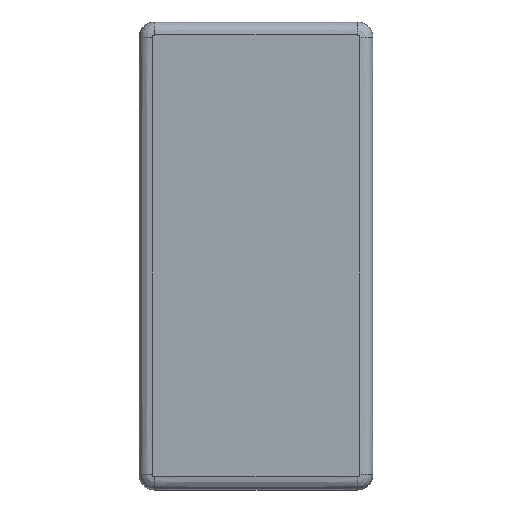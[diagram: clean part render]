
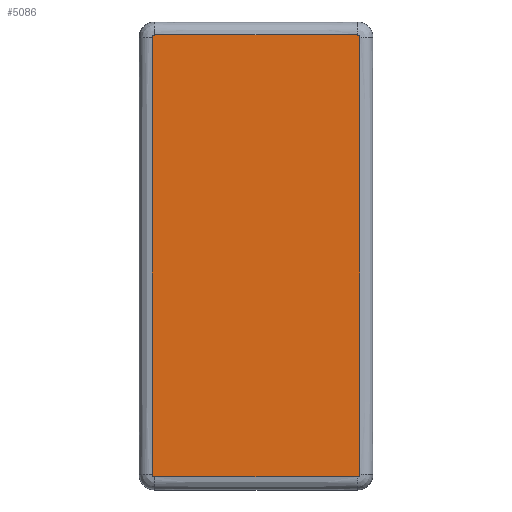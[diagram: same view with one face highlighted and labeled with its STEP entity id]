
A CAD part, top view. The second image highlights one B-rep face of the part: STEP entity #5086.
In plain terms, the highlighted planar face has unit normal (0, 0, 1).
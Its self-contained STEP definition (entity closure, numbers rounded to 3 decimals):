
#75 = CARTESIAN_POINT ( 'NONE',  ( -19.631, 42.486, 4. ) ) ;
#98 = CARTESIAN_POINT ( 'NONE',  ( 19.5, 42.5, 4. ) ) ;
#140 = EDGE_CURVE ( 'NONE', #6663, #2915, #2535, .T. ) ;
#428 = CARTESIAN_POINT ( 'NONE',  ( 19.566, -42.5, 4. ) ) ;
#597 = VERTEX_POINT ( 'NONE', #964 ) ;
#604 = DIRECTION ( 'NONE',  ( -1., 0., 0. ) ) ;
#732 = CARTESIAN_POINT ( 'NONE',  ( 19.935, 42.25, 4. ) ) ;
#758 = VERTEX_POINT ( 'NONE', #2478 ) ;
#964 = CARTESIAN_POINT ( 'NONE',  ( -20., -42., 4. ) ) ;
#975 = CARTESIAN_POINT ( 'NONE',  ( -19.987, 42.131, 4. ) ) ;
#1009 = CARTESIAN_POINT ( 'NONE',  ( -20., 42.067, 4. ) ) ;
#1061 = CARTESIAN_POINT ( 'NONE',  ( -20., -42., 4. ) ) ;
#1147 = CARTESIAN_POINT ( 'NONE',  ( 20., -42., 4. ) ) ;
#1295 = EDGE_LOOP ( 'NONE', ( #2414, #8806, #3270, #5755, #9425, #6650, #7775, #6167 ) ) ;
#1339 = CARTESIAN_POINT ( 'NONE',  ( -19.752, -42.437, 4. ) ) ;
#1352 = CARTESIAN_POINT ( 'NONE',  ( 20., -42., 4. ) ) ;
#1355 = CARTESIAN_POINT ( 'NONE',  ( 0., 0., 4. ) ) ;
#1422 = CARTESIAN_POINT ( 'NONE',  ( 20., 14., 4. ) ) ;
#1479 = CARTESIAN_POINT ( 'NONE',  ( 19.95, 42.221, 4. ) ) ;
#1545 = CARTESIAN_POINT ( 'NONE',  ( 19.876, 42.331, 4. ) ) ;
#1659 = EDGE_CURVE ( 'NONE', #7745, #758, #8162, .T. ) ;
#1828 = EDGE_CURVE ( 'NONE', #3415, #7745, #4730, .T. ) ;
#1858 = B_SPLINE_CURVE_WITH_KNOTS ( 'NONE', 3,
 ( #9187, #428, #6359, #1910, #7783, #8524, #1944, #2701, #8681, #4298, #4203, #1352 ),
 .UNSPECIFIED., .F., .F.,
 ( 4, 2, 2, 2, 2, 4 ),
 ( 0., 0.25, 0.375, 0.5, 0.75, 1. ),
 .UNSPECIFIED. ) ;
#1910 = CARTESIAN_POINT ( 'NONE',  ( 19.721, -42.45, 4. ) ) ;
#1944 = CARTESIAN_POINT ( 'NONE',  ( 19.831, -42.376, 4. ) ) ;
#2034 = CARTESIAN_POINT ( 'NONE',  ( -19.5, -42.5, 4. ) ) ;
#2081 = EDGE_CURVE ( 'NONE', #3461, #7437, #6957, .T. ) ;
#2227 = EDGE_CURVE ( 'NONE', #7437, #6663, #1858, .T. ) ;
#2414 = ORIENTED_EDGE ( 'NONE', *, *, #7422, .T. ) ;
#2427 = EDGE_CURVE ( 'NONE', #2915, #3415, #2598, .T. ) ;
#2463 = CARTESIAN_POINT ( 'NONE',  ( 19.5, -42.5, 4. ) ) ;
#2470 = CARTESIAN_POINT ( 'NONE',  ( -19.831, 42.376, 4. ) ) ;
#2478 = CARTESIAN_POINT ( 'NONE',  ( -20., 42., 4. ) ) ;
#2535 = B_SPLINE_CURVE_WITH_KNOTS ( 'NONE', 3,
 ( #7970, #5818, #1422, #8032 ),
 .UNSPECIFIED., .F., .F.,
 ( 4, 4 ),
 ( 0., 1. ),
 .UNSPECIFIED. ) ;
#2598 = B_SPLINE_CURVE_WITH_KNOTS ( 'NONE', 3,
 ( #3039, #4494, #5990, #1479, #732, #6614, #1545, #7415, #8160, #3760, #8877, #98 ),
 .UNSPECIFIED., .F., .F.,
 ( 4, 2, 2, 2, 2, 4 ),
 ( 0., 0.25, 0.375, 0.5, 0.75, 1. ),
 .UNSPECIFIED. ) ;
#2701 = CARTESIAN_POINT ( 'NONE',  ( 19.9, -42.308, 4. ) ) ;
#2814 = CARTESIAN_POINT ( 'NONE',  ( -19.567, -42.5, 4. ) ) ;
#2915 = VERTEX_POINT ( 'NONE', #3694 ) ;
#3039 = CARTESIAN_POINT ( 'NONE',  ( 20., 42., 4. ) ) ;
#3230 = CARTESIAN_POINT ( 'NONE',  ( -6.5, -42.5, 4. ) ) ;
#3270 = ORIENTED_EDGE ( 'NONE', *, *, #2227, .T. ) ;
#3411 = CARTESIAN_POINT ( 'NONE',  ( -19.935, -42.25, 4. ) ) ;
#3415 = VERTEX_POINT ( 'NONE', #4976 ) ;
#3461 = VERTEX_POINT ( 'NONE', #2034 ) ;
#3694 = CARTESIAN_POINT ( 'NONE',  ( 20., 42., 4. ) ) ;
#3760 = CARTESIAN_POINT ( 'NONE',  ( 19.631, 42.487, 4. ) ) ;
#3999 = CARTESIAN_POINT ( 'NONE',  ( 19.5, 42.5, 4. ) ) ;
#4114 = CARTESIAN_POINT ( 'NONE',  ( -19.898, -42.304, 4. ) ) ;
#4179 = CARTESIAN_POINT ( 'NONE',  ( -19.95, -42.221, 4. ) ) ;
#4203 = CARTESIAN_POINT ( 'NONE',  ( 20., -42.067, 4. ) ) ;
#4298 = CARTESIAN_POINT ( 'NONE',  ( 19.987, -42.131, 4. ) ) ;
#4494 = CARTESIAN_POINT ( 'NONE',  ( 20., 42.066, 4. ) ) ;
#4635 = CARTESIAN_POINT ( 'NONE',  ( -19.566, 42.5, 4. ) ) ;
#4654 = CARTESIAN_POINT ( 'NONE',  ( -20., 14., 4. ) ) ;
#4730 = B_SPLINE_CURVE_WITH_KNOTS ( 'NONE', 3,
 ( #3999, #7868, #4972, #6353 ),
 .UNSPECIFIED., .F., .F.,
 ( 4, 4 ),
 ( 0., 1. ),
 .UNSPECIFIED. ) ;
#4849 = CARTESIAN_POINT ( 'NONE',  ( -19.876, -42.331, 4. ) ) ;
#4874 = EDGE_CURVE ( 'NONE', #758, #597, #9056, .T. ) ;
#4972 = CARTESIAN_POINT ( 'NONE',  ( -6.5, 42.5, 4. ) ) ;
#4976 = CARTESIAN_POINT ( 'NONE',  ( 19.5, 42.5, 4. ) ) ;
#4978 = PLANE ( 'NONE',  #7466 ) ;
#5086 = ADVANCED_FACE ( 'NONE', ( #6578 ), #4978, .F. ) ;
#5164 = CARTESIAN_POINT ( 'NONE',  ( -19.5, -42.5, 4. ) ) ;
#5318 = CARTESIAN_POINT ( 'NONE',  ( -19.9, 42.308, 4. ) ) ;
#5460 = CARTESIAN_POINT ( 'NONE',  ( -20., 42., 4. ) ) ;
#5718 = CARTESIAN_POINT ( 'NONE',  ( -19.986, -42.131, 4. ) ) ;
#5755 = ORIENTED_EDGE ( 'NONE', *, *, #140, .T. ) ;
#5818 = CARTESIAN_POINT ( 'NONE',  ( 20., -14., 4. ) ) ;
#5990 = CARTESIAN_POINT ( 'NONE',  ( 19.986, 42.131, 4. ) ) ;
#6000 = CARTESIAN_POINT ( 'NONE',  ( -19.75, 42.435, 4. ) ) ;
#6167 = ORIENTED_EDGE ( 'NONE', *, *, #4874, .T. ) ;
#6353 = CARTESIAN_POINT ( 'NONE',  ( -19.5, 42.5, 4. ) ) ;
#6359 = CARTESIAN_POINT ( 'NONE',  ( 19.631, -42.486, 4. ) ) ;
#6469 = CARTESIAN_POINT ( 'NONE',  ( -19.631, -42.487, 4. ) ) ;
#6491 = CARTESIAN_POINT ( 'NONE',  ( -19.808, -42.4, 4. ) ) ;
#6494 = CARTESIAN_POINT ( 'NONE',  ( -19.804, 42.398, 4. ) ) ;
#6499 = DIRECTION ( 'NONE',  ( 0., 0., -1. ) ) ;
#6578 = FACE_OUTER_BOUND ( 'NONE', #1295, .T. ) ;
#6614 = CARTESIAN_POINT ( 'NONE',  ( 19.898, 42.304, 4. ) ) ;
#6650 = ORIENTED_EDGE ( 'NONE', *, *, #1828, .T. ) ;
#6663 = VERTEX_POINT ( 'NONE', #1147 ) ;
#6751 = CARTESIAN_POINT ( 'NONE',  ( -19.937, 42.252, 4. ) ) ;
#6765 = CARTESIAN_POINT ( 'NONE',  ( -19.721, 42.45, 4. ) ) ;
#6957 = B_SPLINE_CURVE_WITH_KNOTS ( 'NONE', 3,
 ( #5164, #3230, #7633, #2463 ),
 .UNSPECIFIED., .F., .F.,
 ( 4, 4 ),
 ( 0., 1. ),
 .UNSPECIFIED. ) ;
#6991 = CARTESIAN_POINT ( 'NONE',  ( -20., -14., 4. ) ) ;
#7266 = CARTESIAN_POINT ( 'NONE',  ( -19.5, -42.5, 4. ) ) ;
#7415 = CARTESIAN_POINT ( 'NONE',  ( 19.808, 42.4, 4. ) ) ;
#7422 = EDGE_CURVE ( 'NONE', #597, #3461, #7616, .T. ) ;
#7437 = VERTEX_POINT ( 'NONE', #8010 ) ;
#7466 = AXIS2_PLACEMENT_3D ( 'NONE', #1355, #6499, #604 ) ;
#7616 = B_SPLINE_CURVE_WITH_KNOTS ( 'NONE', 3,
 ( #7846, #8556, #5718, #4179, #3411, #4114, #4849, #6491, #1339, #6469, #2814, #7266 ),
 .UNSPECIFIED., .F., .F.,
 ( 4, 2, 2, 2, 2, 4 ),
 ( 0., 0.25, 0.375, 0.5, 0.75, 1. ),
 .UNSPECIFIED. ) ;
#7633 = CARTESIAN_POINT ( 'NONE',  ( 6.5, -42.5, 4. ) ) ;
#7650 = CARTESIAN_POINT ( 'NONE',  ( -19.5, 42.5, 4. ) ) ;
#7745 = VERTEX_POINT ( 'NONE', #7650 ) ;
#7775 = ORIENTED_EDGE ( 'NONE', *, *, #1659, .T. ) ;
#7783 = CARTESIAN_POINT ( 'NONE',  ( 19.75, -42.435, 4. ) ) ;
#7846 = CARTESIAN_POINT ( 'NONE',  ( -20., -42., 4. ) ) ;
#7868 = CARTESIAN_POINT ( 'NONE',  ( 6.5, 42.5, 4. ) ) ;
#7970 = CARTESIAN_POINT ( 'NONE',  ( 20., -42., 4. ) ) ;
#8010 = CARTESIAN_POINT ( 'NONE',  ( 19.5, -42.5, 4. ) ) ;
#8032 = CARTESIAN_POINT ( 'NONE',  ( 20., 42., 4. ) ) ;
#8160 = CARTESIAN_POINT ( 'NONE',  ( 19.752, 42.437, 4. ) ) ;
#8162 = B_SPLINE_CURVE_WITH_KNOTS ( 'NONE', 3,
 ( #9027, #4635, #75, #6765, #6000, #6494, #2470, #5318, #6751, #975, #1009, #9043 ),
 .UNSPECIFIED., .F., .F.,
 ( 4, 2, 2, 2, 2, 4 ),
 ( 0., 0.25, 0.375, 0.5, 0.75, 1. ),
 .UNSPECIFIED. ) ;
#8524 = CARTESIAN_POINT ( 'NONE',  ( 19.804, -42.398, 4. ) ) ;
#8556 = CARTESIAN_POINT ( 'NONE',  ( -20., -42.066, 4. ) ) ;
#8681 = CARTESIAN_POINT ( 'NONE',  ( 19.937, -42.252, 4. ) ) ;
#8806 = ORIENTED_EDGE ( 'NONE', *, *, #2081, .T. ) ;
#8877 = CARTESIAN_POINT ( 'NONE',  ( 19.567, 42.5, 4. ) ) ;
#9027 = CARTESIAN_POINT ( 'NONE',  ( -19.5, 42.5, 4. ) ) ;
#9043 = CARTESIAN_POINT ( 'NONE',  ( -20., 42., 4. ) ) ;
#9056 = B_SPLINE_CURVE_WITH_KNOTS ( 'NONE', 3,
 ( #5460, #4654, #6991, #1061 ),
 .UNSPECIFIED., .F., .F.,
 ( 4, 4 ),
 ( 0., 1. ),
 .UNSPECIFIED. ) ;
#9187 = CARTESIAN_POINT ( 'NONE',  ( 19.5, -42.5, 4. ) ) ;
#9425 = ORIENTED_EDGE ( 'NONE', *, *, #2427, .T. ) ;
